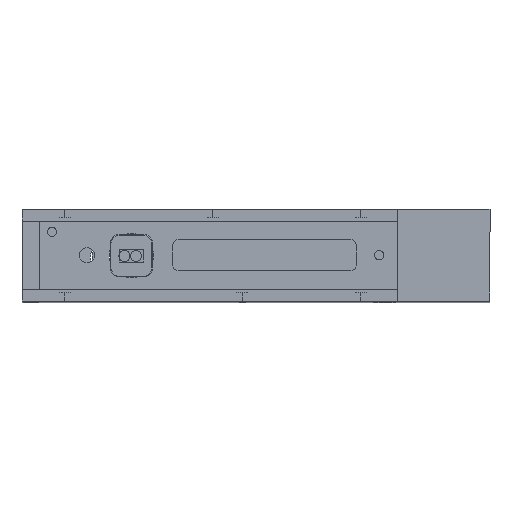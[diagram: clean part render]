
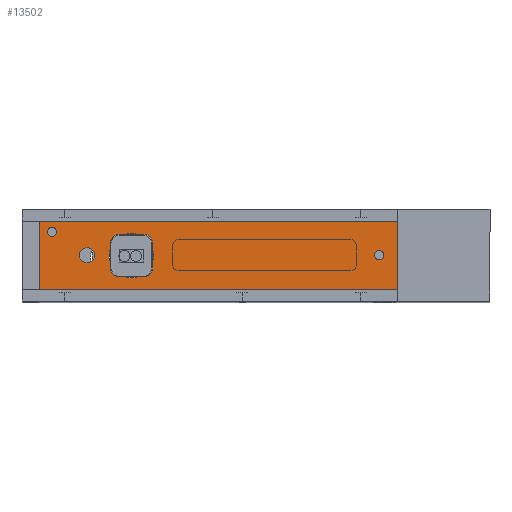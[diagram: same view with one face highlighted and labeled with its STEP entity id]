
A CAD part, top view. The second image highlights one B-rep face of the part: STEP entity #13502.
In plain terms, the highlighted planar face has unit normal (0, 0, 1).
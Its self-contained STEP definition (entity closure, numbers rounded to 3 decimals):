
#78 = LINE ( 'NONE', #16837, #3937 ) ;
#135 = VERTEX_POINT ( 'NONE', #15054 ) ;
#446 = DIRECTION ( 'NONE',  ( 0., -1., 0. ) ) ;
#504 = EDGE_CURVE ( 'NONE', #8500, #9412, #4116, .T. ) ;
#564 = DIRECTION ( 'NONE',  ( 0., 0., -1. ) ) ;
#695 = LINE ( 'NONE', #1372, #12779 ) ;
#734 = LINE ( 'NONE', #17928, #4366 ) ;
#778 = AXIS2_PLACEMENT_3D ( 'NONE', #20151, #16671, #446 ) ;
#911 = EDGE_CURVE ( 'NONE', #3362, #13506, #734, .T. ) ;
#1372 = CARTESIAN_POINT ( 'NONE',  ( 0.1, 69.467, 6.35 ) ) ;
#1421 = EDGE_LOOP ( 'NONE', ( #16936, #19225 ) ) ;
#1424 = CARTESIAN_POINT ( 'NONE',  ( 9.3, 56.627, 6.35 ) ) ;
#1507 = AXIS2_PLACEMENT_3D ( 'NONE', #20293, #10193, #12069 ) ;
#1625 = EDGE_CURVE ( 'NONE', #12995, #14340, #2510, .T. ) ;
#1675 = DIRECTION ( 'NONE',  ( 0., 0., -1. ) ) ;
#1873 = DIRECTION ( 'NONE',  ( 0., 0., 1. ) ) ;
#1939 = CARTESIAN_POINT ( 'NONE',  ( 9.3, 56.627, 6.35 ) ) ;
#2510 = CIRCLE ( 'NONE', #1507, 1.23 ) ;
#2807 = ORIENTED_EDGE ( 'NONE', *, *, #504, .T. ) ;
#2820 = AXIS2_PLACEMENT_3D ( 'NONE', #8620, #7034, #5319 ) ;
#3362 = VERTEX_POINT ( 'NONE', #7488 ) ;
#3448 = FACE_BOUND ( 'NONE', #10191, .T. ) ;
#3937 = VECTOR ( 'NONE', #13397, 1000. ) ;
#3973 = ORIENTED_EDGE ( 'NONE', *, *, #11624, .T. ) ;
#4116 = CIRCLE ( 'NONE', #778, 6. ) ;
#4323 = ORIENTED_EDGE ( 'NONE', *, *, #7227, .T. ) ;
#4366 = VECTOR ( 'NONE', #11206, 1000. ) ;
#4592 = AXIS2_PLACEMENT_3D ( 'NONE', #20348, #564, #7103 ) ;
#5049 = DIRECTION ( 'NONE',  ( 0., -1., 0. ) ) ;
#5312 = VERTEX_POINT ( 'NONE', #9322 ) ;
#5319 = DIRECTION ( 'NONE',  ( 0., -1., 0. ) ) ;
#5545 = LINE ( 'NONE', #15482, #19642 ) ;
#5884 = CARTESIAN_POINT ( 'NONE',  ( 3.2, 44.627, 6.35 ) ) ;
#6449 = EDGE_CURVE ( 'NONE', #12233, #17441, #8846, .T. ) ;
#6687 = AXIS2_PLACEMENT_3D ( 'NONE', #1939, #19872, #5049 ) ;
#6740 = CARTESIAN_POINT ( 'NONE',  ( 15.674, 66.127, 6.35 ) ) ;
#6781 = DIRECTION ( 'NONE',  ( 0., -1., 0. ) ) ;
#7034 = DIRECTION ( 'NONE',  ( 0., 0., -1. ) ) ;
#7103 = DIRECTION ( 'NONE',  ( 0., -1., 0. ) ) ;
#7213 = EDGE_CURVE ( 'NONE', #9412, #8500, #18578, .T. ) ;
#7227 = EDGE_CURVE ( 'NONE', #12420, #135, #12454, .T. ) ;
#7229 = CARTESIAN_POINT ( 'NONE',  ( 10.55, -22.373, 6.35 ) ) ;
#7488 = CARTESIAN_POINT ( 'NONE',  ( 0.1, 69.467, 6.35 ) ) ;
#7978 = CARTESIAN_POINT ( 'NONE',  ( 9.3, 58.694, 6.35 ) ) ;
#8331 = FACE_OUTER_BOUND ( 'NONE', #10888, .T. ) ;
#8500 = VERTEX_POINT ( 'NONE', #5884 ) ;
#8620 = CARTESIAN_POINT ( 'NONE',  ( 9.32, -22.373, 6.35 ) ) ;
#8846 = CIRCLE ( 'NONE', #15941, 2.067 ) ;
#8934 = VERTEX_POINT ( 'NONE', #13229 ) ;
#9322 = CARTESIAN_POINT ( 'NONE',  ( 18.54, -27.373, 6.35 ) ) ;
#9412 = VERTEX_POINT ( 'NONE', #21220 ) ;
#9526 = AXIS2_PLACEMENT_3D ( 'NONE', #18523, #1873, #16681 ) ;
#9642 = ORIENTED_EDGE ( 'NONE', *, *, #19210, .F. ) ;
#9827 = CIRCLE ( 'NONE', #2820, 1.23 ) ;
#10097 = ORIENTED_EDGE ( 'NONE', *, *, #19133, .T. ) ;
#10191 = EDGE_LOOP ( 'NONE', ( #10390, #13495 ) ) ;
#10193 = DIRECTION ( 'NONE',  ( 0., 0., -1. ) ) ;
#10390 = ORIENTED_EDGE ( 'NONE', *, *, #14011, .T. ) ;
#10888 = EDGE_LOOP ( 'NONE', ( #3973, #9642, #19161, #14690 ) ) ;
#11157 = FACE_BOUND ( 'NONE', #1421, .T. ) ;
#11206 = DIRECTION ( 'NONE',  ( 1., 0., 0. ) ) ;
#11420 = CARTESIAN_POINT ( 'NONE',  ( 8.091, -22.373, 6.35 ) ) ;
#11624 = EDGE_CURVE ( 'NONE', #3362, #8934, #695, .T. ) ;
#11656 = FACE_BOUND ( 'NONE', #15288, .T. ) ;
#11747 = DIRECTION ( 'NONE',  ( 0., 0., -1. ) ) ;
#11954 = CARTESIAN_POINT ( 'NONE',  ( 15.674, 64.898, 6.35 ) ) ;
#12069 = DIRECTION ( 'NONE',  ( 0., -1., 0. ) ) ;
#12233 = VERTEX_POINT ( 'NONE', #7978 ) ;
#12420 = VERTEX_POINT ( 'NONE', #11954 ) ;
#12454 = CIRCLE ( 'NONE', #19781, 1.229 ) ;
#12779 = VECTOR ( 'NONE', #6781, 1000. ) ;
#12817 = AXIS2_PLACEMENT_3D ( 'NONE', #15021, #11747, #16546 ) ;
#12995 = VERTEX_POINT ( 'NONE', #11420 ) ;
#13229 = CARTESIAN_POINT ( 'NONE',  ( 0.1, -27.373, 6.35 ) ) ;
#13397 = DIRECTION ( 'NONE',  ( 0., 1., 0. ) ) ;
#13495 = ORIENTED_EDGE ( 'NONE', *, *, #1625, .T. ) ;
#13502 = ADVANCED_FACE ( 'NONE', ( #8331, #3448, #11157, #11656, #17568 ), #16873, .T. ) ;
#13506 = VERTEX_POINT ( 'NONE', #20100 ) ;
#13982 = DIRECTION ( 'NONE',  ( -1., 0., 0. ) ) ;
#14011 = EDGE_CURVE ( 'NONE', #14340, #12995, #9827, .T. ) ;
#14304 = DIRECTION ( 'NONE',  ( 0., -1., 0. ) ) ;
#14340 = VERTEX_POINT ( 'NONE', #7229 ) ;
#14690 = ORIENTED_EDGE ( 'NONE', *, *, #911, .F. ) ;
#14778 = EDGE_CURVE ( 'NONE', #17441, #12233, #15458, .T. ) ;
#14952 = DIRECTION ( 'NONE',  ( 0., -1., 0. ) ) ;
#15021 = CARTESIAN_POINT ( 'NONE',  ( 9.2, 44.627, 6.35 ) ) ;
#15054 = CARTESIAN_POINT ( 'NONE',  ( 15.674, 67.357, 6.35 ) ) ;
#15288 = EDGE_LOOP ( 'NONE', ( #4323, #10097 ) ) ;
#15457 = EDGE_CURVE ( 'NONE', #5312, #13506, #78, .T. ) ;
#15458 = CIRCLE ( 'NONE', #6687, 2.067 ) ;
#15482 = CARTESIAN_POINT ( 'NONE',  ( 18.54, -27.373, 6.35 ) ) ;
#15941 = AXIS2_PLACEMENT_3D ( 'NONE', #1424, #20934, #14304 ) ;
#16546 = DIRECTION ( 'NONE',  ( 0., -1., 0. ) ) ;
#16671 = DIRECTION ( 'NONE',  ( 0., 0., -1. ) ) ;
#16681 = DIRECTION ( 'NONE',  ( 1., 0., 0. ) ) ;
#16837 = CARTESIAN_POINT ( 'NONE',  ( 18.54, -27.373, 6.35 ) ) ;
#16873 = PLANE ( 'NONE',  #9526 ) ;
#16936 = ORIENTED_EDGE ( 'NONE', *, *, #14778, .T. ) ;
#17351 = CIRCLE ( 'NONE', #4592, 1.229 ) ;
#17441 = VERTEX_POINT ( 'NONE', #21185 ) ;
#17568 = FACE_BOUND ( 'NONE', #20879, .T. ) ;
#17849 = ORIENTED_EDGE ( 'NONE', *, *, #7213, .T. ) ;
#17928 = CARTESIAN_POINT ( 'NONE',  ( 0.1, 69.467, 6.35 ) ) ;
#18523 = CARTESIAN_POINT ( 'NONE',  ( 9.32, 21.047, 6.35 ) ) ;
#18578 = CIRCLE ( 'NONE', #12817, 6. ) ;
#19133 = EDGE_CURVE ( 'NONE', #135, #12420, #17351, .T. ) ;
#19161 = ORIENTED_EDGE ( 'NONE', *, *, #15457, .T. ) ;
#19210 = EDGE_CURVE ( 'NONE', #5312, #8934, #5545, .T. ) ;
#19225 = ORIENTED_EDGE ( 'NONE', *, *, #6449, .T. ) ;
#19642 = VECTOR ( 'NONE', #13982, 1000. ) ;
#19781 = AXIS2_PLACEMENT_3D ( 'NONE', #6740, #1675, #14952 ) ;
#19872 = DIRECTION ( 'NONE',  ( 0., 0., -1. ) ) ;
#20100 = CARTESIAN_POINT ( 'NONE',  ( 18.54, 69.467, 6.35 ) ) ;
#20151 = CARTESIAN_POINT ( 'NONE',  ( 9.2, 44.627, 6.35 ) ) ;
#20293 = CARTESIAN_POINT ( 'NONE',  ( 9.32, -22.373, 6.35 ) ) ;
#20348 = CARTESIAN_POINT ( 'NONE',  ( 15.674, 66.127, 6.35 ) ) ;
#20879 = EDGE_LOOP ( 'NONE', ( #17849, #2807 ) ) ;
#20934 = DIRECTION ( 'NONE',  ( 0., 0., -1. ) ) ;
#21185 = CARTESIAN_POINT ( 'NONE',  ( 9.3, 54.56, 6.35 ) ) ;
#21220 = CARTESIAN_POINT ( 'NONE',  ( 15.2, 44.627, 6.35 ) ) ;
